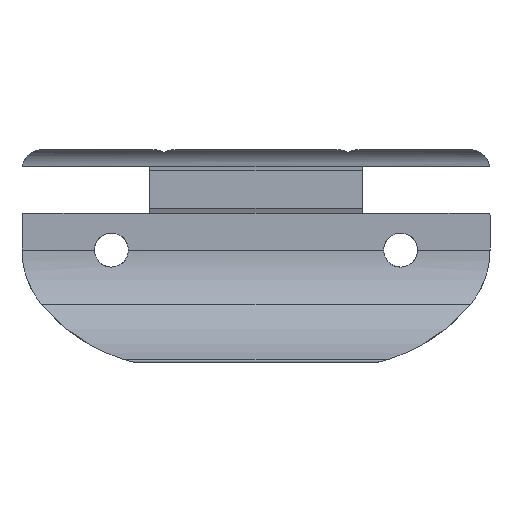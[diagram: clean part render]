
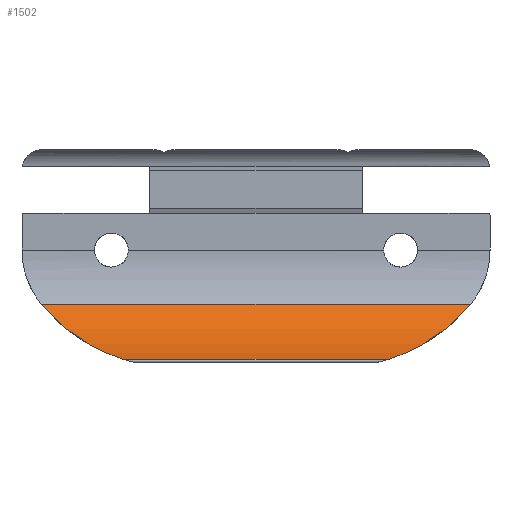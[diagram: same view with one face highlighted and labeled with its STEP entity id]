
A CAD part, front view. The second image highlights one B-rep face of the part: STEP entity #1502.
In plain terms, the highlighted cylindrical face has radius 20 mm (diameter 40 mm), a partial arc.
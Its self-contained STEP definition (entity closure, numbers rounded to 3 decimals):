
#2 = CARTESIAN_POINT ( 'NONE',  ( -7.544, 7.412, -23.485 ) ) ;
#68 = VECTOR ( 'NONE', #2033, 1000. ) ;
#72 = CARTESIAN_POINT ( 'NONE',  ( -6.093, 6.073, 24.838 ) ) ;
#81 = LINE ( 'NONE', #1722, #68 ) ;
#93 = CARTESIAN_POINT ( 'NONE',  ( -8.784, 8.831, 22.049 ) ) ;
#109 = CARTESIAN_POINT ( 'NONE',  ( -11.525, 13.448, 17.347 ) ) ;
#115 = EDGE_CURVE ( 'NONE', #1323, #1873, #81, .T. ) ;
#120 = CARTESIAN_POINT ( 'NONE',  ( -10.313, 11.084, 19.762 ) ) ;
#228 = CARTESIAN_POINT ( 'NONE',  ( -6.093, 6.073, -24.838 ) ) ;
#271 = CARTESIAN_POINT ( 'NONE',  ( -5.673, 5.723, 25.206 ) ) ;
#273 = CARTESIAN_POINT ( 'NONE',  ( -10.751, 11.862, 18.97 ) ) ;
#294 = B_SPLINE_CURVE_WITH_KNOTS ( 'NONE', 3,
 ( #72, #559, #734, #93, #1429, #1243, #120, #273, #1415, #109, #419, #1438 ),
 .UNSPECIFIED., .F., .F.,
 ( 4, 2, 2, 2, 2, 4 ),
 ( 0., 0.004, 0.007, 0.009, 0.011, 0.014 ),
 .UNSPECIFIED. ) ;
#312 = CARTESIAN_POINT ( 'NONE',  ( -10.313, 11.084, -19.762 ) ) ;
#339 = VERTEX_POINT ( 'NONE', #1853 ) ;
#370 = ORIENTED_EDGE ( 'NONE', *, *, #960, .F. ) ;
#419 = CARTESIAN_POINT ( 'NONE',  ( -11.845, 14.253, 16.52 ) ) ;
#437 = ORIENTED_EDGE ( 'NONE', *, *, #1934, .F. ) ;
#443 = DIRECTION ( 'NONE',  ( 0., 0., -1. ) ) ;
#464 = CARTESIAN_POINT ( 'NONE',  ( -10.751, 11.862, -18.97 ) ) ;
#471 = B_SPLINE_CURVE_WITH_KNOTS ( 'NONE', 3,
 ( #483, #1631, #1307, #1139 ),
 .UNSPECIFIED., .F., .F.,
 ( 4, 4 ),
 ( 0., 0.001 ),
 .UNSPECIFIED. ) ;
#483 = CARTESIAN_POINT ( 'NONE',  ( -5.673, 5.723, 25.206 ) ) ;
#495 = CARTESIAN_POINT ( 'NONE',  ( -5.673, 5.723, -25.206 ) ) ;
#498 = CARTESIAN_POINT ( 'NONE',  ( -10.956, 12.256, -18.567 ) ) ;
#514 = B_SPLINE_CURVE_WITH_KNOTS ( 'NONE', 3,
 ( #495, #1152, #551, #228 ),
 .UNSPECIFIED., .F., .F.,
 ( 4, 4 ),
 ( 0., 0.001 ),
 .UNSPECIFIED. ) ;
#544 = DIRECTION ( 'NONE',  ( 0., 0., -1. ) ) ;
#551 = CARTESIAN_POINT ( 'NONE',  ( -5.957, 5.956, -24.965 ) ) ;
#559 = CARTESIAN_POINT ( 'NONE',  ( -6.859, 6.727, 24.177 ) ) ;
#585 = CYLINDRICAL_SURFACE ( 'NONE', #1434, 20. ) ;
#604 = ORIENTED_EDGE ( 'NONE', *, *, #670, .F. ) ;
#609 = CARTESIAN_POINT ( 'NONE',  ( -12.11, 15.062, 15.674 ) ) ;
#639 = CARTESIAN_POINT ( 'NONE',  ( -9.338, 9.566, -21.305 ) ) ;
#644 = CARTESIAN_POINT ( 'NONE',  ( -11.845, 14.253, -16.52 ) ) ;
#670 = EDGE_CURVE ( 'NONE', #1323, #339, #471, .T. ) ;
#708 = EDGE_LOOP ( 'NONE', ( #1609, #1051, #1021, #370, #437, #604 ) ) ;
#711 = LINE ( 'NONE', #2028, #1942 ) ;
#718 = VERTEX_POINT ( 'NONE', #1640 ) ;
#734 = CARTESIAN_POINT ( 'NONE',  ( -7.544, 7.412, 23.485 ) ) ;
#809 = CARTESIAN_POINT ( 'NONE',  ( -8.784, 8.831, -22.049 ) ) ;
#960 = EDGE_CURVE ( 'NONE', #1045, #718, #711, .T. ) ;
#1021 = ORIENTED_EDGE ( 'NONE', *, *, #1632, .T. ) ;
#1045 = VERTEX_POINT ( 'NONE', #609 ) ;
#1051 = ORIENTED_EDGE ( 'NONE', *, *, #2091, .T. ) ;
#1137 = CARTESIAN_POINT ( 'NONE',  ( -6.859, 6.727, -24.177 ) ) ;
#1139 = CARTESIAN_POINT ( 'NONE',  ( -6.093, 6.073, 24.838 ) ) ;
#1152 = CARTESIAN_POINT ( 'NONE',  ( -5.817, 5.839, -25.087 ) ) ;
#1243 = CARTESIAN_POINT ( 'NONE',  ( -10.081, 10.7, 20.152 ) ) ;
#1297 = CARTESIAN_POINT ( 'NONE',  ( -12.11, 15.062, -15.674 ) ) ;
#1307 = CARTESIAN_POINT ( 'NONE',  ( -5.957, 5.956, 24.965 ) ) ;
#1323 = VERTEX_POINT ( 'NONE', #271 ) ;
#1338 = CARTESIAN_POINT ( 'NONE',  ( -6.093, 6.073, -24.838 ) ) ;
#1399 = CARTESIAN_POINT ( 'NONE',  ( 6.9, 21.277, 27.5 ) ) ;
#1415 = CARTESIAN_POINT ( 'NONE',  ( -10.956, 12.256, 18.567 ) ) ;
#1429 = CARTESIAN_POINT ( 'NONE',  ( -9.338, 9.566, 21.305 ) ) ;
#1434 = AXIS2_PLACEMENT_3D ( 'NONE', #1399, #443, #1932 ) ;
#1438 = CARTESIAN_POINT ( 'NONE',  ( -12.11, 15.062, 15.674 ) ) ;
#1477 = CARTESIAN_POINT ( 'NONE',  ( -6.093, 6.073, -24.838 ) ) ;
#1502 = ADVANCED_FACE ( 'NONE', ( #1731 ), #585, .F. ) ;
#1567 = CARTESIAN_POINT ( 'NONE',  ( -5.673, 5.723, -25.206 ) ) ;
#1609 = ORIENTED_EDGE ( 'NONE', *, *, #115, .T. ) ;
#1631 = CARTESIAN_POINT ( 'NONE',  ( -5.817, 5.839, 25.087 ) ) ;
#1632 = EDGE_CURVE ( 'NONE', #2042, #718, #1770, .T. ) ;
#1640 = CARTESIAN_POINT ( 'NONE',  ( -12.11, 15.062, -15.674 ) ) ;
#1722 = CARTESIAN_POINT ( 'NONE',  ( -5.673, 5.723, 27.5 ) ) ;
#1731 = FACE_OUTER_BOUND ( 'NONE', #708, .T. ) ;
#1770 = B_SPLINE_CURVE_WITH_KNOTS ( 'NONE', 3,
 ( #1477, #1137, #2, #809, #639, #1957, #312, #464, #498, #1964, #644, #1297 ),
 .UNSPECIFIED., .F., .F.,
 ( 4, 2, 2, 2, 2, 4 ),
 ( 0., 0.004, 0.007, 0.009, 0.011, 0.014 ),
 .UNSPECIFIED. ) ;
#1853 = CARTESIAN_POINT ( 'NONE',  ( -6.093, 6.073, 24.838 ) ) ;
#1873 = VERTEX_POINT ( 'NONE', #1567 ) ;
#1932 = DIRECTION ( 'NONE',  ( -1., 0., 0. ) ) ;
#1934 = EDGE_CURVE ( 'NONE', #339, #1045, #294, .T. ) ;
#1942 = VECTOR ( 'NONE', #544, 1000. ) ;
#1957 = CARTESIAN_POINT ( 'NONE',  ( -10.081, 10.7, -20.152 ) ) ;
#1964 = CARTESIAN_POINT ( 'NONE',  ( -11.525, 13.448, -17.347 ) ) ;
#2028 = CARTESIAN_POINT ( 'NONE',  ( -12.11, 15.062, 27.5 ) ) ;
#2033 = DIRECTION ( 'NONE',  ( 0., 0., -1. ) ) ;
#2042 = VERTEX_POINT ( 'NONE', #1338 ) ;
#2091 = EDGE_CURVE ( 'NONE', #1873, #2042, #514, .T. ) ;
